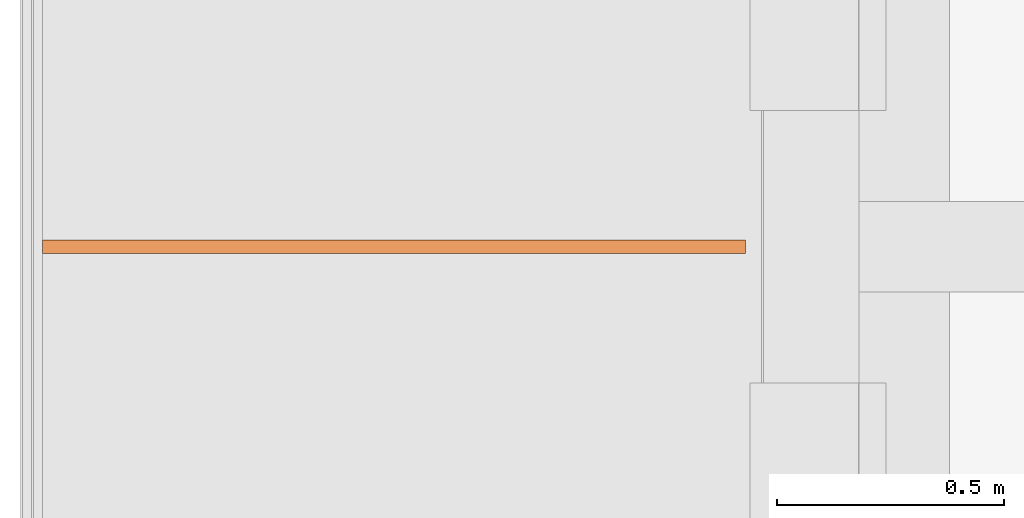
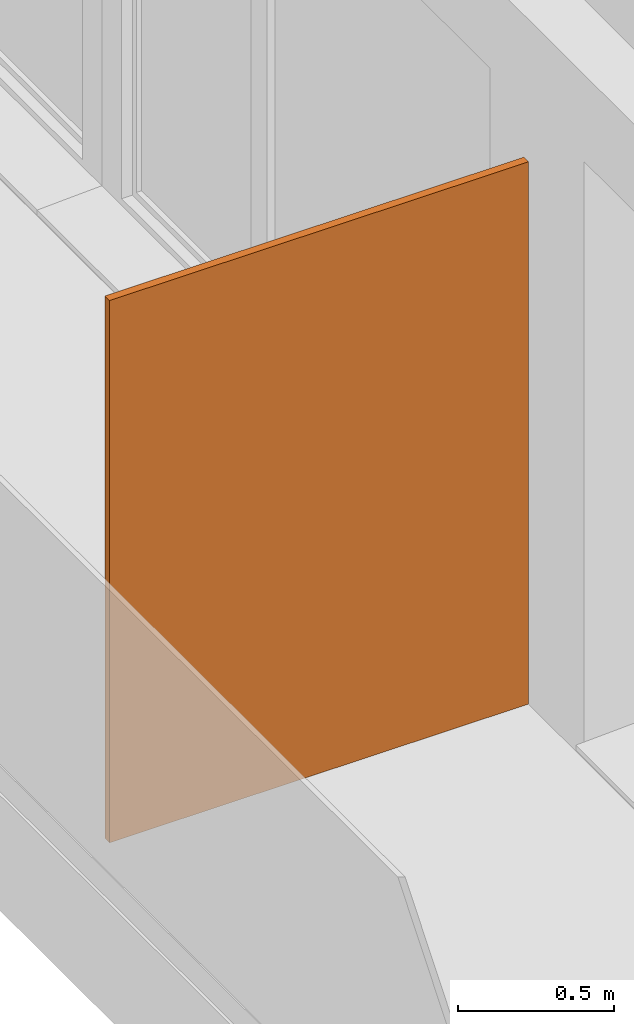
# One storey, part 18 of 67: 1 proxy.
"""IFC2X3 building model written with IfcOpenShell, lengths in millimetres."""

from ifc_helpers import new_model, entity, si_unit, converted_unit, derived_unit, money_unit, direction, frame, origin_with_axes, place, context, subcontext, project, spatial, polyline, outline, extrude, material, type_object, element, save


model = new_model("IFC2X3")

# Units and contexts
model_context = context("Model", 3, precision=0.01, world=origin_with_axes(), true_north=direction((0.34421633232, 0.938890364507)))
body_context = subcontext(model_context, "Body", "Model", "MODEL_VIEW")
ifc_project = project(units=[si_unit("LENGTHUNIT", "METRE", prefix="MILLI"), si_unit("AREAUNIT", "SQUARE_METRE"), si_unit("VOLUMEUNIT", "CUBIC_METRE"), converted_unit("PLANEANGLEUNIT", "DEGREE", entity("IfcPlaneAngleMeasure", 0.0174532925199), si_unit("PLANEANGLEUNIT", "RADIAN"), dimensions=[0, 0, 0, 0, 0, 0, 0]), si_unit("SOLIDANGLEUNIT", "STERADIAN"), money_unit("USD"), converted_unit("TIMEUNIT", "Year", entity("IfcTimeMeasure", 31556926.0), si_unit("TIMEUNIT", "SECOND"), dimensions=[0, 0, 1, 0, 0, 0, 0]), si_unit("MASSUNIT", "GRAM", prefix="KILO"), si_unit("THERMODYNAMICTEMPERATUREUNIT", "DEGREE_CELSIUS"), si_unit("LUMINOUSINTENSITYUNIT", "LUMEN"), si_unit("ENERGYUNIT", "JOULE", prefix="MEGA"), derived_unit("THERMALCONDUCTANCEUNIT", [(si_unit("POWERUNIT", "WATT"), 1), (si_unit("LENGTHUNIT", "METRE"), -1), (si_unit("THERMODYNAMICTEMPERATUREUNIT", "KELVIN"), -1)]), derived_unit("SPECIFICHEATCAPACITYUNIT", [(si_unit("ENERGYUNIT", "JOULE"), 1), (si_unit("MASSUNIT", "GRAM", prefix="KILO"), -1), (si_unit("THERMODYNAMICTEMPERATUREUNIT", "KELVIN"), -1)]), derived_unit("MASSDENSITYUNIT", [(si_unit("MASSUNIT", "GRAM", prefix="KILO"), 1), (si_unit("VOLUMEUNIT", "CUBIC_METRE"), -1)])], contexts=[model_context])

# Site, building, storey
site_placement = place(None, origin_with_axes())
site = spatial("IfcSite", under=ifc_project, at=site_placement, Name="USTRONIE MORSKIE", CompositionType="ELEMENT")
building_placement = place(site_placement, origin_with_axes())
building = spatial("IfcBuilding", under=site, at=building_placement, Name="Budynek", CompositionType="ELEMENT")
storey_placement = place(building_placement, frame((0.0, 0.0, 4000.0), z_axis=(0.0, 0.0, 1.0), x_axis=(1.0, 0.0, 0.0)))
storey = spatial("IfcBuildingStorey", under=building, at=storey_placement, Name="PIĘTRO 1", CompositionType="ELEMENT", Elevation=4000.0)

# Proxy
ifc_material = material(Name="Woda")
building_element_proxy_type = type_object("IfcBuildingElementProxyType", Name="Woda 30", PredefinedType="NOTDEFINED")
proxy_placement = place(storey_placement, frame((349717.920919, 732801.199036, 20.0), z_axis=(0.0, 0.0, 1.0), x_axis=(-1.0, 0.0, 0.0)))
element("IfcBuildingElementProxy", 1, at=proxy_placement, inside=storey, type_object=building_element_proxy_type, material=ifc_material, Name="Œciana-007", context=body_context, shape_type="SweptSolid", body=[
    extrude(outline(polyline([(0.0, -15.0), (1550.0, -15.0), (1550.0, 15.0), (0.0, 15.0), (0.0, -15.0)])), origin_with_axes(), (0.0, 0.0, 1.0), 2120.0),
])

save(model, "model.ifc")
